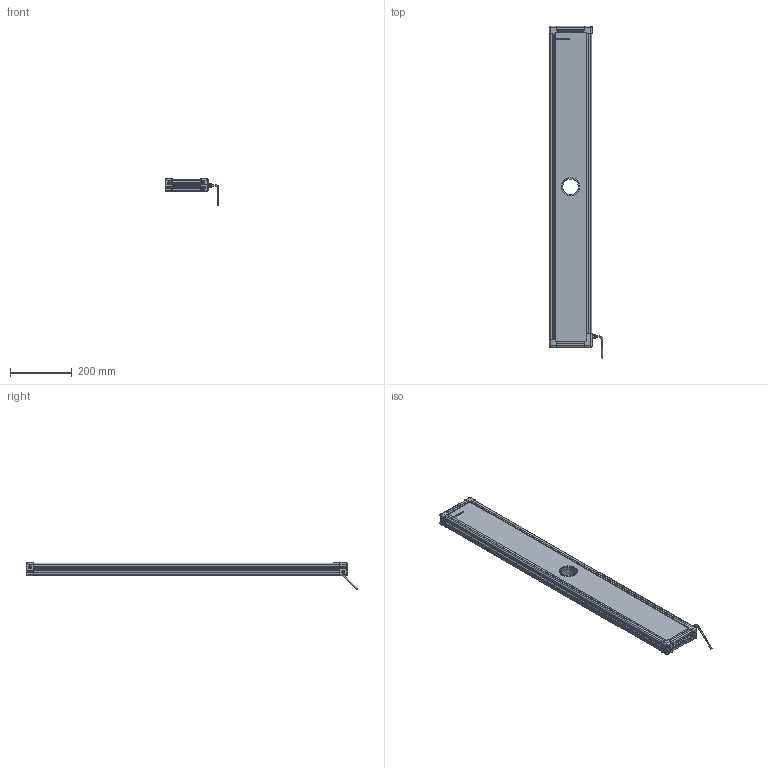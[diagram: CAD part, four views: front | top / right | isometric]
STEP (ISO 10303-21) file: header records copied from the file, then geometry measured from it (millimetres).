
FILE_DESCRIPTION (( 'STEP AP214' ), '1' );
FILE_NAME ('EFFI-FD-100-1000-ZZZ-1M12.STEP', '2021-06-18T14:35:24', ( '' ), ( '' ), 'SwSTEP 2.0', 'SolidWorks 2021', '' );
FILE_SCHEMA (( 'AUTOMOTIVE_DESIGN' ));
Length unit declared in the file: millimetre
Products named in the file (13): 001039; Assemblage Ø50; petite joue; 000590; cordon_Avec cable; profile X_PERCE; EFFI-FD-100-1000-ZZZ-1M12; 001040; Pièce13^EFFI-BL-XXX-YYY-ZZZ (1connecteur) Ø50; profile Y_PERCE; 000629; grande joue; petite joue + vis
Assembly tree (21 placements, depth 3):
  EFFI-FD-100-1000-ZZZ-1M12
    profile X_PERCE  x2
    profile Y_PERCE  x2
    Pièce13^EFFI-BL-XXX-YYY-ZZZ (1connecteur) Ø50
    petite joue + vis  x3
      petite joue
      000629
    000629  x2
    grande joue
    Assemblage Ø50
      001039
      001040
      000590  x3
    cordon_Avec cable
Bounding box: 174.15 x 1072.82 x 86.52 mm (x, y, z)
Volume: 4864029.2 mm3; surface area: 664486.3 mm2
Topology: 22 solids, 28 shells, 3840 faces, 10209 edges, 6700 vertices
Faces by surface type: plane 2371, cylinder 724, bspline 552, cone 150, torus 35, sphere 8
Entity records: 72881 total; most frequent: CARTESIAN_POINT 28442, ORIENTED_EDGE 9308, DIRECTION 7751, EDGE_CURVE 4658, VECTOR 3485, LINE 3485, VERTEX_POINT 3071, AXIS2_PLACEMENT_3D 2133
